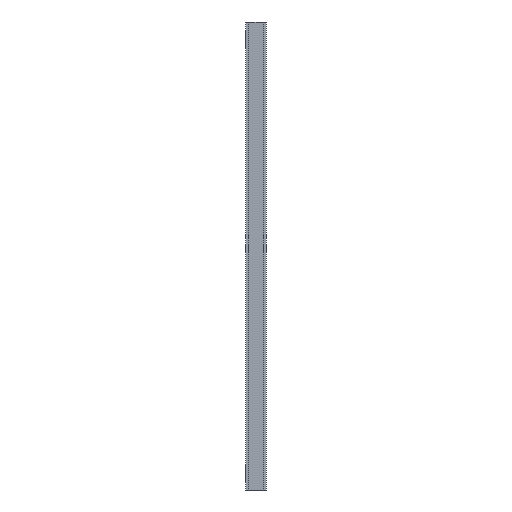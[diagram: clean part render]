
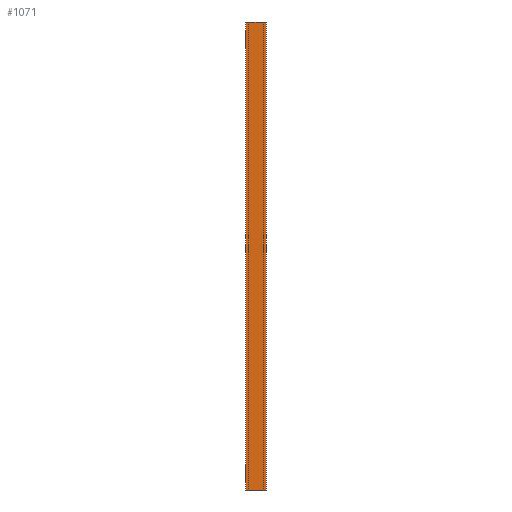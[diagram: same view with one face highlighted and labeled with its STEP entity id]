
A CAD part, left-side view. The second image highlights one B-rep face of the part: STEP entity #1071.
In plain terms, the highlighted planar face has unit normal (-1, 0, 0).
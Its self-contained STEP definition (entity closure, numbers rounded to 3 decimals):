
#2 = VECTOR ( 'NONE', #572, 1000. ) ;
#23 = CARTESIAN_POINT ( 'NONE',  ( -8., 12.5, 279. ) ) ;
#28 = LINE ( 'NONE', #699, #267 ) ;
#94 = CARTESIAN_POINT ( 'NONE',  ( -8., 0., 0. ) ) ;
#159 = DIRECTION ( 'NONE',  ( 0., 1., 0. ) ) ;
#190 = CARTESIAN_POINT ( 'NONE',  ( -8., 12.5, 279. ) ) ;
#208 = EDGE_CURVE ( 'NONE', #1369, #1301, #774, .T. ) ;
#212 = DIRECTION ( 'NONE',  ( 0., 0., -1. ) ) ;
#267 = VECTOR ( 'NONE', #569, 1000. ) ;
#297 = VERTEX_POINT ( 'NONE', #441 ) ;
#299 = LINE ( 'NONE', #1125, #1528 ) ;
#304 = EDGE_CURVE ( 'NONE', #465, #297, #28, .T. ) ;
#308 = CARTESIAN_POINT ( 'NONE',  ( -8., 9.3, 0. ) ) ;
#361 = VERTEX_POINT ( 'NONE', #23 ) ;
#441 = CARTESIAN_POINT ( 'NONE',  ( -8., 0., 0. ) ) ;
#455 = EDGE_CURVE ( 'NONE', #361, #1301, #1017, .T. ) ;
#465 = VERTEX_POINT ( 'NONE', #758 ) ;
#477 = VECTOR ( 'NONE', #853, 1000. ) ;
#569 = DIRECTION ( 'NONE',  ( 0., -1., 0. ) ) ;
#572 = DIRECTION ( 'NONE',  ( 0., 0., -1. ) ) ;
#587 = CARTESIAN_POINT ( 'NONE',  ( -8., 0., 0. ) ) ;
#617 = ORIENTED_EDGE ( 'NONE', *, *, #304, .T. ) ;
#647 = ORIENTED_EDGE ( 'NONE', *, *, #897, .T. ) ;
#658 = DIRECTION ( 'NONE',  ( 0., 1., 0. ) ) ;
#699 = CARTESIAN_POINT ( 'NONE',  ( -8., 0., 0. ) ) ;
#758 = CARTESIAN_POINT ( 'NONE',  ( -8., 3.2, 0. ) ) ;
#770 = CARTESIAN_POINT ( 'NONE',  ( -8., 12.5, 279. ) ) ;
#774 = LINE ( 'NONE', #94, #1317 ) ;
#833 = VECTOR ( 'NONE', #212, 1000. ) ;
#853 = DIRECTION ( 'NONE',  ( 0., 1., 0. ) ) ;
#885 = EDGE_CURVE ( 'NONE', #1027, #297, #1650, .T. ) ;
#897 = EDGE_CURVE ( 'NONE', #1386, #361, #1253, .T. ) ;
#914 = VECTOR ( 'NONE', #159, 1000. ) ;
#970 = DIRECTION ( 'NONE',  ( 0., -1., 0. ) ) ;
#1009 = CARTESIAN_POINT ( 'NONE',  ( -8., 0., 279. ) ) ;
#1017 = LINE ( 'NONE', #770, #833 ) ;
#1020 = PLANE ( 'NONE',  #1361 ) ;
#1027 = VERTEX_POINT ( 'NONE', #1580 ) ;
#1039 = FACE_OUTER_BOUND ( 'NONE', #1395, .T. ) ;
#1071 = ADVANCED_FACE ( 'NONE', ( #1039 ), #1020, .T. ) ;
#1091 = VERTEX_POINT ( 'NONE', #1334 ) ;
#1100 = CARTESIAN_POINT ( 'NONE',  ( -8., 9.3, 279. ) ) ;
#1105 = LINE ( 'NONE', #587, #477 ) ;
#1119 = ORIENTED_EDGE ( 'NONE', *, *, #1419, .F. ) ;
#1125 = CARTESIAN_POINT ( 'NONE',  ( -8., 0., 279. ) ) ;
#1145 = DIRECTION ( 'NONE',  ( 0., 0., 1. ) ) ;
#1253 = LINE ( 'NONE', #190, #914 ) ;
#1301 = VERTEX_POINT ( 'NONE', #1505 ) ;
#1317 = VECTOR ( 'NONE', #658, 1000. ) ;
#1329 = ORIENTED_EDGE ( 'NONE', *, *, #1434, .F. ) ;
#1334 = CARTESIAN_POINT ( 'NONE',  ( -8., 3.2, 279. ) ) ;
#1338 = EDGE_CURVE ( 'NONE', #1091, #1386, #1402, .T. ) ;
#1344 = ORIENTED_EDGE ( 'NONE', *, *, #208, .F. ) ;
#1355 = ORIENTED_EDGE ( 'NONE', *, *, #885, .F. ) ;
#1356 = ORIENTED_EDGE ( 'NONE', *, *, #455, .T. ) ;
#1361 = AXIS2_PLACEMENT_3D ( 'NONE', #1009, #1563, #1145 ) ;
#1369 = VERTEX_POINT ( 'NONE', #308 ) ;
#1372 = ORIENTED_EDGE ( 'NONE', *, *, #1338, .T. ) ;
#1386 = VERTEX_POINT ( 'NONE', #1100 ) ;
#1395 = EDGE_LOOP ( 'NONE', ( #1119, #617, #1355, #1329, #1372, #647, #1356, #1344 ) ) ;
#1402 = LINE ( 'NONE', #1512, #1734 ) ;
#1419 = EDGE_CURVE ( 'NONE', #465, #1369, #1105, .T. ) ;
#1434 = EDGE_CURVE ( 'NONE', #1091, #1027, #299, .T. ) ;
#1505 = CARTESIAN_POINT ( 'NONE',  ( -8., 12.5, 0. ) ) ;
#1512 = CARTESIAN_POINT ( 'NONE',  ( -8., 0., 279. ) ) ;
#1528 = VECTOR ( 'NONE', #970, 1000. ) ;
#1540 = CARTESIAN_POINT ( 'NONE',  ( -8., 0., 279. ) ) ;
#1563 = DIRECTION ( 'NONE',  ( -1., 0., 0. ) ) ;
#1580 = CARTESIAN_POINT ( 'NONE',  ( -8., 0., 279. ) ) ;
#1650 = LINE ( 'NONE', #1540, #2 ) ;
#1662 = DIRECTION ( 'NONE',  ( 0., 1., 0. ) ) ;
#1734 = VECTOR ( 'NONE', #1662, 1000. ) ;
